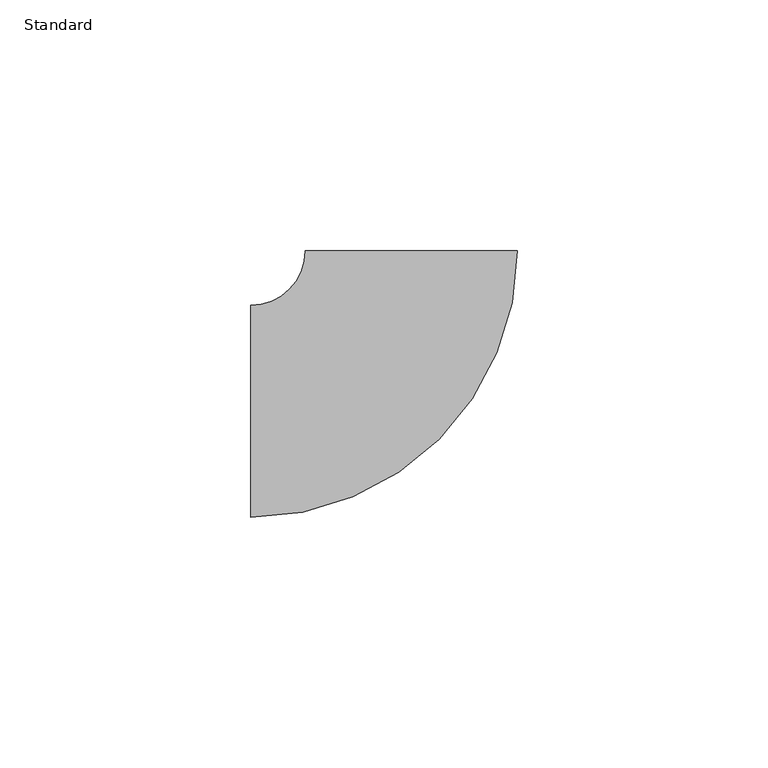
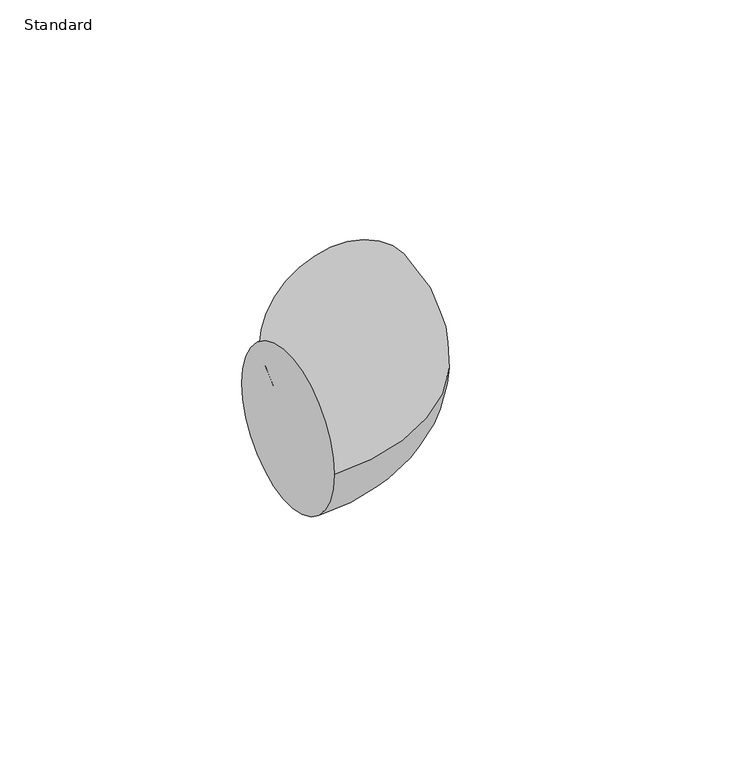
"""IFC4 building model written with IfcOpenShell, lengths in millimetres: pipe fitting geometry, Coude - Générique1 : Standard."""

from ifc_helpers import new_model, si_unit, point, frame, origin, place, context, project, spatial, circle_curve, ellipse_curve, trimmed, source, transform, mapped, element, save
from ifc_brep_helpers import plane_surface, revolved_surface, advanced_brep


def standard_1683f353(model_context):
    return source(origin(), model_context, "Body", "AdvancedBrep", [
        advanced_brep(
        [(-32.0, -21.1, 0.0), (-32.0, 21.1, 0.0), (21.100464, 31.9996941, 0.0), (-21.099536, 32.0003059, 0.0)],
        [
            (0, 1, circle_curve(frame((-32.0, 0.0, 0.0), z_axis=(-1.0, 0.0, 0.0), x_axis=(0.0, 1.0, 0.0)), 21.1)),
            (1, 0, circle_curve(frame((-32.0, 0.0, 0.0), z_axis=(-1.0, 0.0, 0.0), x_axis=(0.0, 1.0, 0.0)), 21.1)),
            (2, 3, circle_curve(frame((0.000464, 32.0, 0.0), z_axis=(1.4498921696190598e-05, 0.9999999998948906, 0.0), x_axis=(-0.9999999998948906, 1.4498921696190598e-05, 0.0)), 21.1)),
            (3, 2, circle_curve(frame((0.000464, 32.0, 0.0), z_axis=(1.4498921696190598e-05, 0.9999999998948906, 0.0), x_axis=(-0.9999999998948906, 1.4498921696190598e-05, 0.0)), 21.1)),
            (3, 1, circle_curve(frame((-32.0, 32.000464, 0.0), z_axis=(0.0, 0.0, -1.0), x_axis=(0.0, -1.0, 0.0)), 10.900464)),
            (0, 2, circle_curve(frame((-32.0, 32.000464, 0.0), z_axis=(0.0, 0.0, 1.0), x_axis=(0.0, -1.0, 0.0)), 53.100464)),
        ],
        [
            plane_surface(frame((-32.0, 0.0, 0.0), z_axis=(-1.0, 0.0, 0.0), x_axis=(0.0, 0.0, 1.0))),
            plane_surface(frame((0.000464, 32.0, 0.0), z_axis=(1.449892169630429e-05, 0.9999999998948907, 0.0), x_axis=(0.0, 0.0, 1.0))),
            revolved_surface(trimmed(ellipse_curve(frame((-32.0, 0.0, 0.0), z_axis=(-1.0, 0.0, 0.0), x_axis=(0.0, 1.0, 0.0)), 21.1, 21.1), [point((-32.0, -21.1, 0.0))], [point((-32.0, 21.1, 0.0))], True, "CARTESIAN"), (-32.0, 32.000464, 0.0), (0.0, 0.0, 1.0)),
            revolved_surface(trimmed(ellipse_curve(frame((-32.0, 0.0, 0.0), z_axis=(-1.0, 0.0, 0.0), x_axis=(0.0, 1.0, 0.0)), 21.1, 21.1), [point((-32.0, 21.1, 0.0))], [point((-32.0, -21.1, 0.0))], True, "CARTESIAN"), (-32.0, 32.000464, 0.0), (0.0, 0.0, 1.0)),
        ],
        [
            (0, [[1, 2]]),
            (1, [[3, 4]]),
            (2, [[5, -1, 6, -4]]),
            (3, [[-6, -2, -5, -3]]),
        ],
    ),
    ])


if __name__ == "__main__":
    model = new_model("IFC4")
    model_context = context("Model", 3, world=origin())
    ifc_project = project(units=[si_unit("LENGTHUNIT", "METRE", prefix="MILLI")], contexts=[model_context])
    site = spatial("IfcSite", under=ifc_project)
    building = spatial("IfcBuilding", under=site)
    placement = place(None, origin())
    standard_shape = standard_1683f353(model_context)
    element("IfcPipeFitting", 1, ObjectType="Coude - Générique1 : Standard", at=placement, inside=building, context=model_context, shape_type="MappedRepresentation", body=[
        mapped(standard_shape, transform((0.0, 0.0, 0.0), x_axis=(1.0, 0.0, 0.0), y_axis=(0.0, 1.0, 0.0), z_axis=(0.0, 0.0, 1.0))),
    ])
    save(model, "model.ifc")
